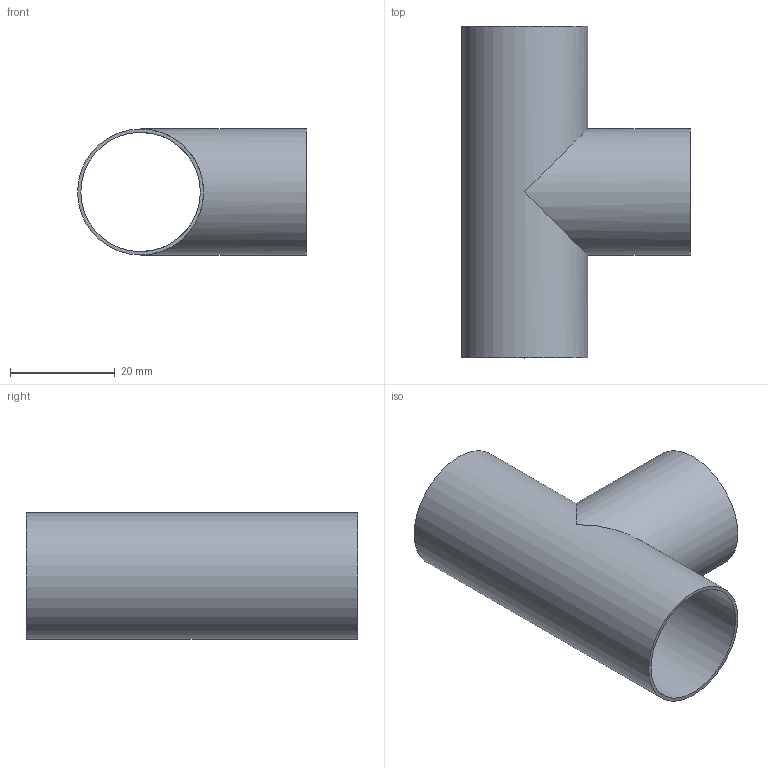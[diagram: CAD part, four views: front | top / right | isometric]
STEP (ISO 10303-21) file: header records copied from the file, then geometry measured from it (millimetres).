
FILE_DESCRIPTION(('FreeCAD Model'),'2;1');
FILE_NAME('/home/jwright/Documents/Mach_30/Shepard_v1.0_CAD/STEP_Files/Shepard_v1.0_Copper_Plumbin_T_MMB06.step','2012-11-05T15:00:30',('FreeCAD'),( 'FreeCAD'),'Open CASCADE STEP processor 6.5','FreeCAD','Unknown');
FILE_SCHEMA(('AUTOMOTIVE_DESIGN_CC2 { 1 2 10303 214 -1 1 5 4 }'));
Length unit declared in the file: millimetre
Products named in the file (1): Cut001
Bounding box: 43.81 x 63.5 x 24.13 mm (x, y, z)
Volume: 3763.2 mm3; surface area: 11992.1 mm2
Topology: 1 solids, 1 shells, 7 faces, 20 edges, 14 vertices
Faces by surface type: cylinder 4, plane 3
Full cylindrical faces by diameter (mm): 22.86 x2, 24.13 x2
Entity records: 639 total; most frequent: CARTESIAN_POINT 220, DIRECTION 74, ORIENTED_EDGE 40, PCURVE 40, DEFINITIONAL_REPRESENTATION 40, LINE 24, VECTOR 24, AXIS2_PLACEMENT_3D 22
